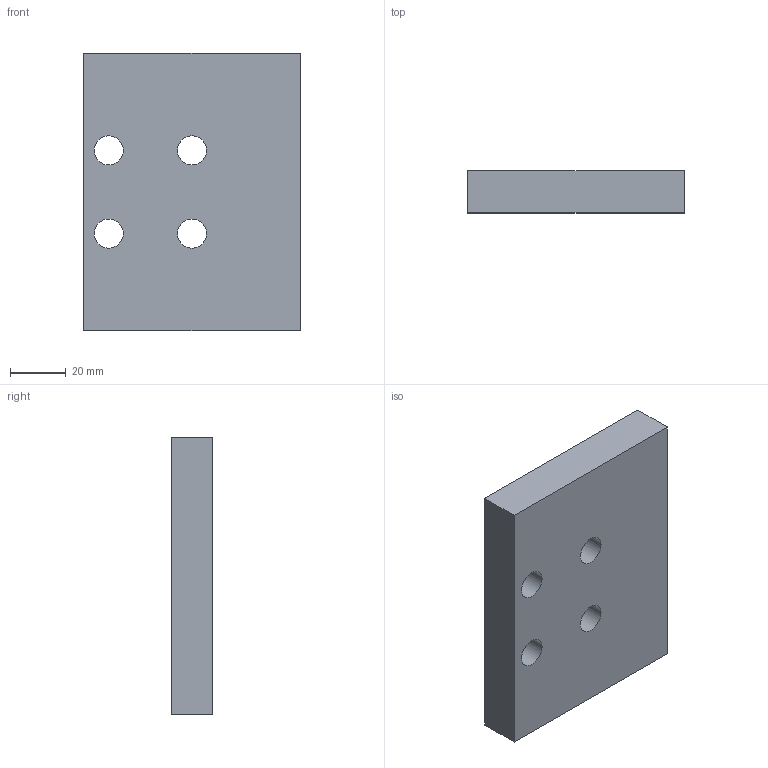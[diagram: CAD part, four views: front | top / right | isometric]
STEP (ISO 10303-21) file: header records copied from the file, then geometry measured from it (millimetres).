
FILE_DESCRIPTION( ( '' ), '1' );
FILE_NAME( 'E:/04 嬴檜蠱滌/0404 ZIMMER/040414 ZIMMER CAD download/Adapt plate/PLK for LKP, LKPS/PLK55-15.stp', '2020-04-16T10:20:12', ( '' ), ( '' ), ' ', ' ', ' ' );
FILE_SCHEMA( ( 'automotive_design' ) );
Length unit declared in the file: millimetre
Products named in the file (1): 1
Bounding box: 78 x 15 x 100 mm (x, y, z)
Volume: 111804.6 mm3; surface area: 22226.5 mm2
Topology: 1 solids, 1 shells, 14 faces, 36 edges, 24 vertices
Faces by surface type: cylinder 8, plane 6
Entity records: 888 total; most frequent: DIRECTION 82, STYLED_ITEM 75, PRESENTATION_STYLE_ASSIGNMENT 75, CARTESIAN_POINT 75, COLOUR_RGB 75, ORIENTED_EDGE 72, EDGE_CURVE 36, CURVE_STYLE 36
